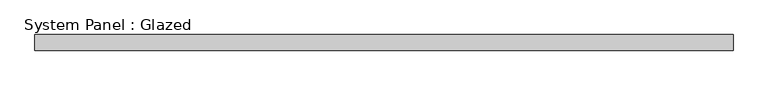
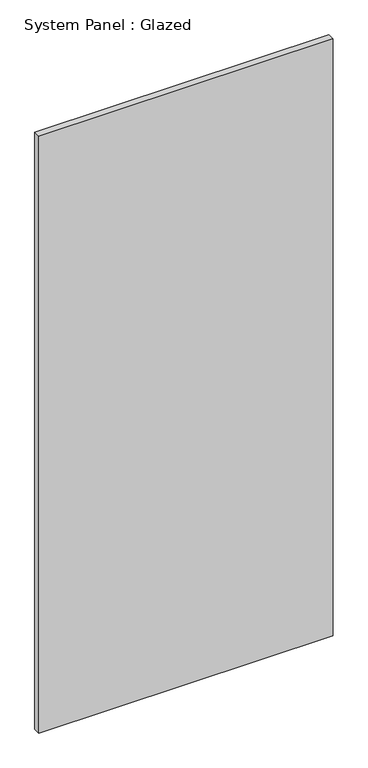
"""IFC4 building model written with IfcOpenShell, lengths in millimetres: plate geometry, System Panel : Glazed."""

from ifc_helpers import new_model, si_unit, origin, origin_with_axes, place, context, project, spatial, polyline, outline, extrude, source, transform, mapped, element, save


def system_panel_glazed_125eecc7(model_context):
    return source(origin(), model_context, "Body", "SweptSolid", [
        extrude(outline(polyline([(554.0375, 19.05), (-554.0375, 19.05), (-554.0375, 44.45), (554.0375, 44.45), (554.0375, 19.05)])), origin_with_axes(), (0.0, 0.0, 1.0), 2374.9),
    ])


if __name__ == "__main__":
    model = new_model("IFC4")
    model_context = context("Model", 3, world=origin())
    ifc_project = project(units=[si_unit("LENGTHUNIT", "METRE", prefix="MILLI")], contexts=[model_context])
    site = spatial("IfcSite", under=ifc_project)
    building = spatial("IfcBuilding", under=site)
    placement = place(None, origin())
    system_panel_glazed_shape = system_panel_glazed_125eecc7(model_context)
    element("IfcPlate", 1, ObjectType="System Panel : Glazed", at=placement, inside=building, context=model_context, shape_type="MappedRepresentation", body=[
        mapped(system_panel_glazed_shape, transform((0.0, 0.0, 0.0), x_axis=(1.0, 0.0, 0.0), y_axis=(0.0, 1.0, 0.0), z_axis=(0.0, 0.0, 1.0))),
    ])
    save(model, "model.ifc")
